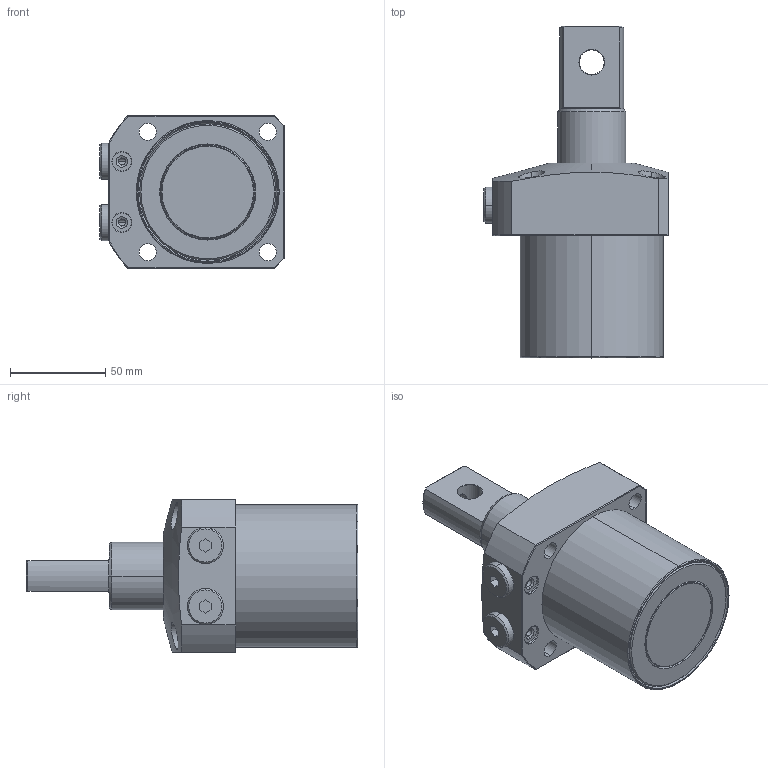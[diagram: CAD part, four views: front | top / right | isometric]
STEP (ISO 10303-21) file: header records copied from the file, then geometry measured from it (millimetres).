
FILE_DESCRIPTION (( 'STEP AP203' ), '1' );
FILE_NAME ('20630-CL-P.step', '2019-06-24T03:12:57', ( '微软用户' ), ( '微软中国' ), 'SwSTEP 2.0', 'SolidWorks 2014', '' );
FILE_SCHEMA (( 'CONFIG_CONTROL_DESIGN' ));
Length unit declared in the file: millimetre
Products named in the file (5): 20630-C-P-1^20630-CL-P; 20630-C-P-2^20630-CL-P; 20630-C-P-3^20630-CL-P; 20630-C-P-4^20630-CL-P; 20630-CL-P
Assembly tree (5 placements, depth 2):
  20630-CL-P
    20630-C-P-1^20630-CL-P
    20630-C-P-2^20630-CL-P
    20630-C-P-3^20630-CL-P
    20630-C-P-4^20630-CL-P  x2
Bounding box: 96.5 x 174 x 80 mm (x, y, z)
Volume: 570909.8 mm3; surface area: 63189.6 mm2
Topology: 5 solids, 5 shells, 169 faces, 383 edges, 239 vertices
Faces by surface type: cylinder 67, plane 53, cone 37, torus 12
Entity records: 5611 total; most frequent: CARTESIAN_POINT 1524, DIRECTION 774, ORIENTED_EDGE 710, EDGE_CURVE 355, AXIS2_PLACEMENT_3D 319, VERTEX_POINT 221, EDGE_LOOP 186, ADVANCED_FACE 156
